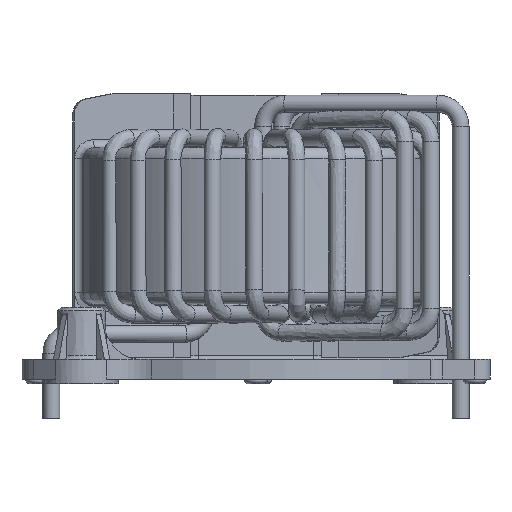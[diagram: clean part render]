
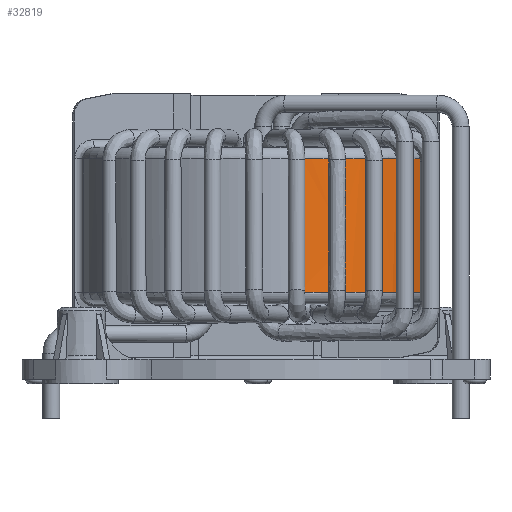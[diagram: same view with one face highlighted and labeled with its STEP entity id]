
A CAD part, front view. The second image highlights one B-rep face of the part: STEP entity #32819.
In plain terms, the highlighted cylindrical face has radius 23 mm (diameter 46 mm), a partial arc.
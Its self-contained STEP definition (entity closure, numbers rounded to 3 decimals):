
#3465=CARTESIAN_POINT('',(4.679,-21.288,1.985));
#3466=VERTEX_POINT('',#3465);
#3467=CARTESIAN_POINT('',(4.704,-21.281,1.7));
#3468=VERTEX_POINT('',#3467);
#3469=CARTESIAN_POINT('',(4.679,-21.288,1.985));
#3470=CARTESIAN_POINT('',(4.678,-21.288,1.952));
#3471=CARTESIAN_POINT('',(4.679,-21.288,1.92));
#3472=CARTESIAN_POINT('',(4.682,-21.287,1.857));
#3473=CARTESIAN_POINT('',(4.685,-21.286,1.828));
#3474=CARTESIAN_POINT('',(4.692,-21.284,1.765));
#3475=CARTESIAN_POINT('',(4.698,-21.283,1.732));
#3476=CARTESIAN_POINT('',(4.704,-21.281,1.7));
#3477=B_SPLINE_CURVE_WITH_KNOTS('',3,(#3469,#3470,#3471,#3472,#3473,#3474,#3475,#3476),.UNSPECIFIED.,.F.,.U.,(4,2,2,4),(0.004,0.014,0.023,0.032),.UNSPECIFIED.);
#3478=EDGE_CURVE('',#3466,#3468,#3477,.T.);
#3566=CARTESIAN_POINT('',(5.019,-21.198,18.986));
#3567=VERTEX_POINT('',#3566);
#3568=CARTESIAN_POINT('',(5.019,-21.198,18.986));
#3569=CARTESIAN_POINT('',(4.977,-21.21,16.187));
#3570=CARTESIAN_POINT('',(4.93,-21.223,13.336));
#3571=CARTESIAN_POINT('',(4.819,-21.252,7.634));
#3572=CARTESIAN_POINT('',(4.756,-21.268,4.783));
#3573=CARTESIAN_POINT('',(4.679,-21.288,1.985));
#3574=B_SPLINE_CURVE_WITH_KNOTS('',3,(#3568,#3569,#3570,#3571,#3572,#3573),.UNSPECIFIED.,.F.,.U.,(4,2,4),(0.961,1.739,2.517),.UNSPECIFIED.);
#3575=EDGE_CURVE('',#3567,#3466,#3574,.T.);
#3663=CARTESIAN_POINT('',(5.023,-21.197,19.1));
#3664=VERTEX_POINT('',#3663);
#3665=CARTESIAN_POINT('',(5.023,-21.197,19.1));
#3666=CARTESIAN_POINT('',(5.021,-21.198,19.062));
#3667=CARTESIAN_POINT('',(5.02,-21.198,19.024));
#3668=CARTESIAN_POINT('',(5.019,-21.198,18.986));
#3669=B_SPLINE_CURVE_WITH_KNOTS('',3,(#3665,#3666,#3667,#3668),.UNSPECIFIED.,.F.,.U.,(4,4),(0.0,0.011),.UNSPECIFIED.);
#3670=EDGE_CURVE('',#3664,#3567,#3669,.T.);
#4899=CARTESIAN_POINT('',(9.744,-19.336,19.1));
#4900=VERTEX_POINT('',#4899);
#4901=CARTESIAN_POINT('',(9.734,-19.342,18.954));
#4902=VERTEX_POINT('',#4901);
#4903=CARTESIAN_POINT('',(9.744,-19.336,19.1));
#4904=CARTESIAN_POINT('',(9.739,-19.339,19.051));
#4905=CARTESIAN_POINT('',(9.735,-19.341,19.003));
#4906=CARTESIAN_POINT('',(9.734,-19.342,18.954));
#4907=B_SPLINE_CURVE_WITH_KNOTS('',3,(#4903,#4904,#4905,#4906),.UNSPECIFIED.,.F.,.U.,(4,4),(0.0,0.015),.UNSPECIFIED.);
#4908=EDGE_CURVE('',#4900,#4902,#4907,.T.);
#4910=CARTESIAN_POINT('',(8.607,-19.897,19.1));
#4911=VERTEX_POINT('',#4910);
#4943=CARTESIAN_POINT('',(8.615,-19.894,18.963));
#4944=VERTEX_POINT('',#4943);
#4945=CARTESIAN_POINT('',(8.615,-19.894,18.963));
#4946=CARTESIAN_POINT('',(8.614,-19.894,19.009));
#4947=CARTESIAN_POINT('',(8.611,-19.895,19.054));
#4948=CARTESIAN_POINT('',(8.607,-19.897,19.1));
#4949=B_SPLINE_CURVE_WITH_KNOTS('',3,(#4945,#4946,#4947,#4948),.UNSPECIFIED.,.F.,.U.,(4,4),(0.001,0.015),.UNSPECIFIED.);
#4950=EDGE_CURVE('',#4944,#4911,#4949,.T.);
#9699=CARTESIAN_POINT('',(9.734,-19.342,18.954));
#9700=CARTESIAN_POINT('',(9.671,-19.375,16.509));
#9701=CARTESIAN_POINT('',(9.6,-19.412,14.095));
#9702=CARTESIAN_POINT('',(9.489,-19.469,11.174));
#9703=CARTESIAN_POINT('',(9.458,-19.485,10.412));
#9704=CARTESIAN_POINT('',(9.386,-19.521,8.887));
#9705=CARTESIAN_POINT('',(9.346,-19.542,8.125));
#9706=CARTESIAN_POINT('',(9.282,-19.574,7.263));
#9707=CARTESIAN_POINT('',(9.267,-19.581,7.075));
#9708=CARTESIAN_POINT('',(9.232,-19.598,6.7));
#9709=CARTESIAN_POINT('',(9.213,-19.608,6.513));
#9710=CARTESIAN_POINT('',(9.182,-19.624,6.303));
#9711=CARTESIAN_POINT('',(9.175,-19.627,6.258));
#9712=CARTESIAN_POINT('',(9.158,-19.635,6.169));
#9713=CARTESIAN_POINT('',(9.148,-19.64,6.125));
#9714=CARTESIAN_POINT('',(9.132,-19.648,6.074));
#9715=CARTESIAN_POINT('',(9.128,-19.65,6.062));
#9716=CARTESIAN_POINT('',(9.118,-19.655,6.04));
#9717=CARTESIAN_POINT('',(9.113,-19.657,6.029));
#9718=CARTESIAN_POINT('',(9.103,-19.662,6.02));
#9719=CARTESIAN_POINT('',(9.101,-19.663,6.019));
#9720=CARTESIAN_POINT('',(9.098,-19.665,6.017));
#9721=CARTESIAN_POINT('',(9.096,-19.666,6.017));
#9722=CARTESIAN_POINT('',(9.093,-19.667,6.016));
#9723=CARTESIAN_POINT('',(9.091,-19.668,6.016));
#9724=CARTESIAN_POINT('',(9.088,-19.67,6.017));
#9725=CARTESIAN_POINT('',(9.087,-19.67,6.018));
#9726=CARTESIAN_POINT('',(9.081,-19.673,6.021));
#9727=CARTESIAN_POINT('',(9.078,-19.675,6.024));
#9728=CARTESIAN_POINT('',(9.073,-19.677,6.031));
#9729=CARTESIAN_POINT('',(9.071,-19.678,6.034));
#9730=CARTESIAN_POINT('',(9.066,-19.68,6.043));
#9731=CARTESIAN_POINT('',(9.063,-19.682,6.05));
#9732=CARTESIAN_POINT('',(9.055,-19.685,6.068));
#9733=CARTESIAN_POINT('',(9.052,-19.687,6.08));
#9734=CARTESIAN_POINT('',(9.041,-19.693,6.118));
#9735=CARTESIAN_POINT('',(9.035,-19.695,6.143));
#9736=CARTESIAN_POINT('',(9.019,-19.703,6.223));
#9737=CARTESIAN_POINT('',(9.01,-19.707,6.28));
#9738=CARTESIAN_POINT('',(8.984,-19.72,6.469));
#9739=CARTESIAN_POINT('',(8.97,-19.727,6.608));
#9740=CARTESIAN_POINT('',(8.929,-19.746,7.076));
#9741=CARTESIAN_POINT('',(8.907,-19.757,7.428));
#9742=CARTESIAN_POINT('',(8.843,-19.787,8.615));
#9743=CARTESIAN_POINT('',(8.813,-19.802,9.464));
#9744=CARTESIAN_POINT('',(8.759,-19.827,11.193));
#9745=CARTESIAN_POINT('',(8.737,-19.837,12.073));
#9746=CARTESIAN_POINT('',(8.677,-19.865,14.745));
#9747=CARTESIAN_POINT('',(8.647,-19.879,16.568));
#9748=CARTESIAN_POINT('',(8.62,-19.892,18.582));
#9749=CARTESIAN_POINT('',(8.617,-19.893,18.773));
#9750=CARTESIAN_POINT('',(8.615,-19.894,18.963));
#9751=B_SPLINE_CURVE_WITH_KNOTS('',3,(#9699,#9700,#9701,#9702,#9703,#9704,#9705,#9706,#9707,#9708,#9709,#9710,#9711,#9712,#9713,#9714,#9715,#9716,#9717,#9718,#9719,#9720,#9721,#9722,#9723,#9724,#9725,#9726,#9727,#9728,#9729,#9730,#9731,#9732,#9733,#9734,#9735,#9736,#9737,#9738,#9739,#9740,#9741,#9742,#9743,#9744,#9745,#9746,#9747,#9748,#9749,#9750),.UNSPECIFIED.,.F.,.U.,(4,2,2,2,2,2,2,2,2,2,2,2,2,2,2,2,2,2,2,2,2,2,2,2,2,4),(0.937,1.606,1.814,2.023,2.074,2.125,2.138,2.15,2.154,2.157,2.158,2.159,2.159,2.16,2.161,2.163,2.166,2.173,2.187,2.213,2.267,2.375,2.624,2.873,3.37,3.422),.UNSPECIFIED.);
#9752=EDGE_CURVE('',#4902,#4944,#9751,.T.);
#11177=CARTESIAN_POINT('',(21.499,-3.775,1.7));
#11178=VERTEX_POINT('',#11177);
#11188=CARTESIAN_POINT('',(-1.,1.,1.7));
#11189=DIRECTION('',(0.0,0.0,-1.0));
#11190=DIRECTION('',(0.0,-1.0,0.0));
#11191=AXIS2_PLACEMENT_3D('',#11188,#11189,#11190);
#11192=CIRCLE('',#11191,23.);
#11193=EDGE_CURVE('',#11178,#3468,#11192,.T.);
#32765=CARTESIAN_POINT('',(-1.,1.,19.1));
#32766=DIRECTION('',(0.0,0.0,1.0));
#32767=DIRECTION('',(0.0,-1.0,0.0));
#32768=AXIS2_PLACEMENT_3D('',#32765,#32766,#32767);
#32769=CIRCLE('',#32768,23.);
#32770=EDGE_CURVE('',#3664,#4911,#32769,.T.);
#32773=CARTESIAN_POINT('',(21.499,-3.775,19.1));
#32774=VERTEX_POINT('',#32773);
#32775=CARTESIAN_POINT('',(-1.,1.,19.1));
#32776=DIRECTION('',(0.0,0.0,1.0));
#32777=DIRECTION('',(0.0,-1.0,0.0));
#32778=AXIS2_PLACEMENT_3D('',#32775,#32776,#32777);
#32779=CIRCLE('',#32778,23.);
#32780=EDGE_CURVE('',#4900,#32774,#32779,.T.);
#32797=CARTESIAN_POINT('',(-1.,1.,0.2));
#32798=DIRECTION('',(0.,0.,1.0));
#32799=DIRECTION('',(0.0,-1.0,0.0));
#32800=AXIS2_PLACEMENT_3D('',#32797,#32798,#32799);
#32801=CYLINDRICAL_SURFACE('',#32800,23.);
#32802=ORIENTED_EDGE('',*,*,#3478,.T.);
#32803=ORIENTED_EDGE('',*,*,#11193,.F.);
#32804=CARTESIAN_POINT('',(21.499,-3.775,19.1));
#32805=DIRECTION('',(0.0,0.0,-1.0));
#32806=VECTOR('',#32805,17.4);
#32807=LINE('',#32804,#32806);
#32808=EDGE_CURVE('',#32774,#11178,#32807,.T.);
#32809=ORIENTED_EDGE('',*,*,#32808,.F.);
#32810=ORIENTED_EDGE('',*,*,#32780,.F.);
#32811=ORIENTED_EDGE('',*,*,#4908,.T.);
#32812=ORIENTED_EDGE('',*,*,#9752,.T.);
#32813=ORIENTED_EDGE('',*,*,#4950,.T.);
#32814=ORIENTED_EDGE('',*,*,#32770,.F.);
#32815=ORIENTED_EDGE('',*,*,#3670,.T.);
#32816=ORIENTED_EDGE('',*,*,#3575,.T.);
#32817=EDGE_LOOP('',(#32802,#32803,#32809,#32810,#32811,#32812,#32813,#32814,#32815,#32816));
#32818=FACE_OUTER_BOUND('',#32817,.T.);
#32819=ADVANCED_FACE('',(#32818),#32801,.T.);
